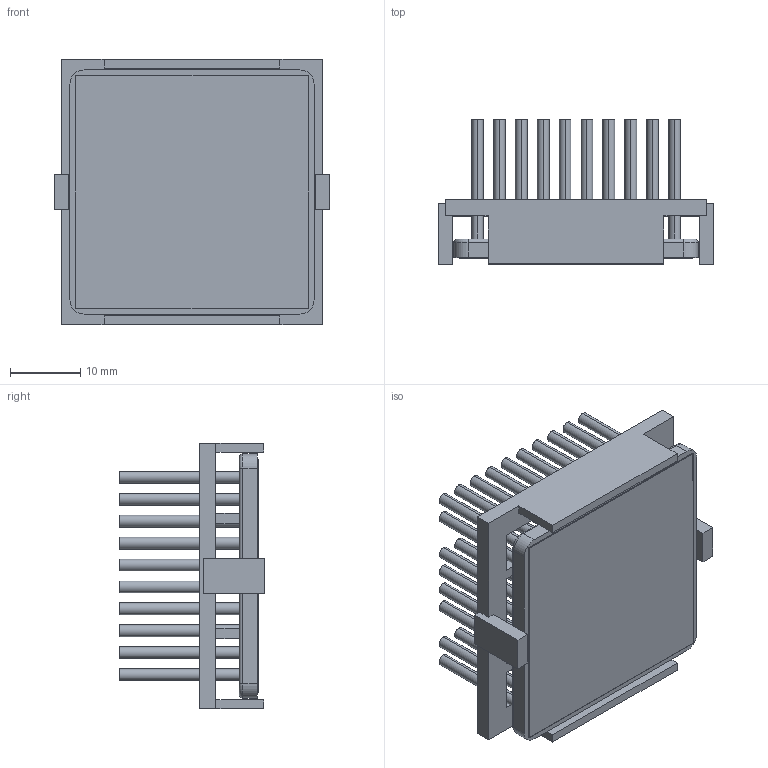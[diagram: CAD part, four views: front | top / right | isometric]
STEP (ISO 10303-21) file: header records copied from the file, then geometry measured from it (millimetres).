
FILE_DESCRIPTION (( 'STEP AP214' ), '1' );
FILE_NAME ('INM35002-20P-2.6O.STEP', '2023-02-21T00:01:02', ( '' ), ( '' ), 'SwSTEP 2.0', 'SolidWorks 2020', '' );
FILE_SCHEMA (( 'AUTOMOTIVE_DESIGN' ));
Length unit declared in the file: inch
Products named in the file (1): INM35002-20P-2.6O
Bounding box: 39.2 x 20.6 x 37.7 mm (x, y, z)
Volume: 8527.4 mm3; surface area: 15945.3 mm2
Topology: 3 solids, 3 shells, 354 faces, 760 edges, 504 vertices
Faces by surface type: cylinder 192, plane 158, torus 4
Entity records: 14416 total; most frequent: DIRECTION 1858, CARTESIAN_POINT 1619, ORIENTED_EDGE 1520, EDGE_CURVE 760, AXIS2_PLACEMENT_3D 743, VERTEX_POINT 504, EDGE_LOOP 448, CIRCLE 388
